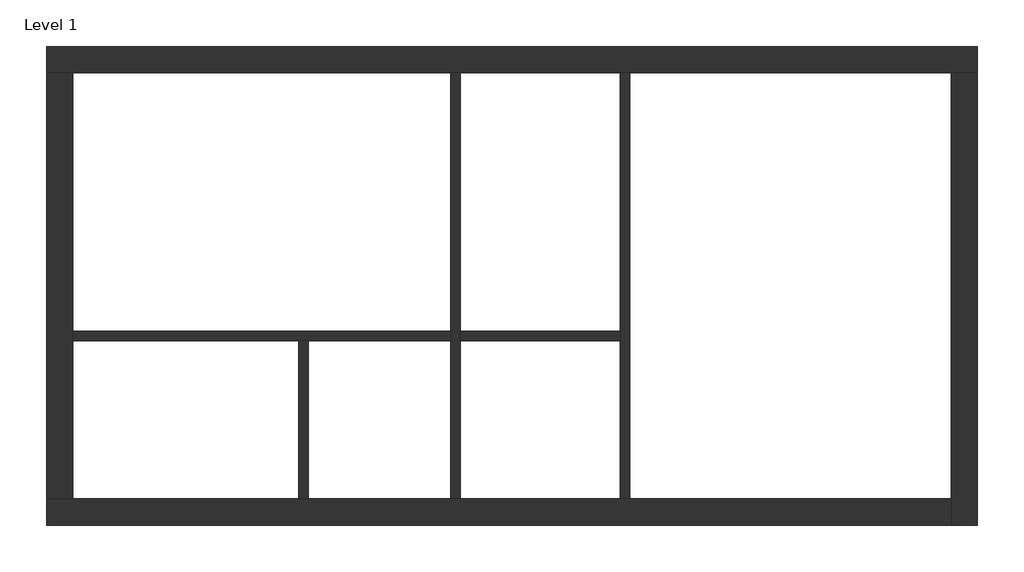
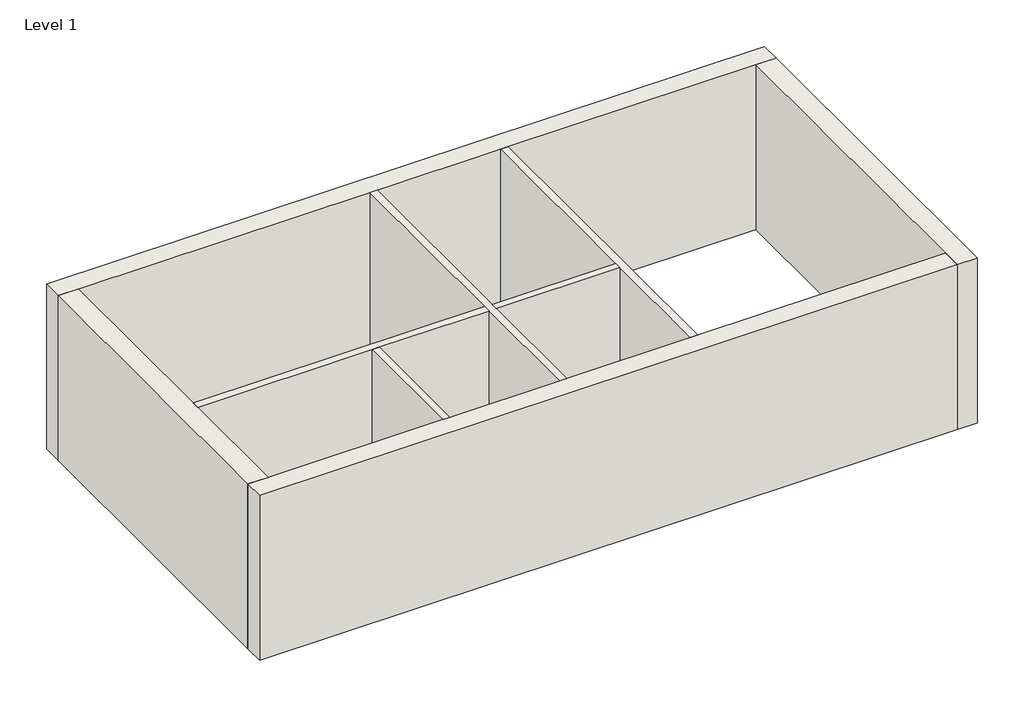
# One storey: 8 walls.
"""IFC4 building model written with IfcOpenShell, lengths in millimetres."""

from ifc_helpers import new_model, si_unit, origin, origin_with_axes, place, context, project, spatial, polyline, outline, extrude, faceted_brep, element, save

model = new_model("IFC4")

# Units and contexts
model_context = context("Model", 3, world=origin())
ifc_project = project(units=[si_unit("LENGTHUNIT", "METRE", prefix="MILLI")], contexts=[model_context])

# Site, building, storey
site = spatial("IfcSite", under=ifc_project)
building = spatial("IfcBuilding", under=site)
storey = spatial("IfcBuildingStorey", under=building, Name="Level 1", Elevation=0.0)

# Walls
placement = place(None, origin())
element("IfcWall", 1, ObjectType="Exterior - Brick on Mtl. Stud", at=placement, inside=storey, context=model_context, shape_type="Brep", body=[
    faceted_brep([(-4587.7696388, 5924.893319, 0.0), (-4235.3446388, 5924.893319, 0.0), (858.9428612, 5924.893319, 0.0), (985.9428612, 5924.893319, 0.0), (3144.9428612, 5924.893319, 0.0), (3271.9428612, 5924.893319, 0.0), (7604.2303612, 5924.893319, 0.0), (7956.6553612, 5924.893319, 0.0), (7956.6553612, 5924.893319, 3048.0), (7604.2303612, 5924.893319, 3048.0), (3271.9428612, 5924.893319, 3048.0), (3144.9428612, 5924.893319, 3048.0), (985.9428612, 5924.893319, 3048.0), (858.9428612, 5924.893319, 3048.0), (-4235.3446388, 5924.893319, 3048.0), (-4587.7696388, 5924.893319, 3048.0), (-4587.7696388, 6277.318319, 0.0), (-4587.7696388, 6277.318319, 3048.0), (7956.6553612, 6277.318319, 3048.0), (7956.6553612, 6277.318319, 0.0)], [[[0, 1, 2, 3, 4, 5, 6, 7, 8, 9, 10, 11, 12, 13, 14, 15]], [[16, 17, 18, 19]], [[7, 6, 5, 4, 3, 2, 1, 0, 16, 19]], [[15, 14, 13, 12, 11, 10, 9, 8, 18, 17]], [[8, 7, 19, 18]], [[0, 15, 17, 16]]]),
])
element("IfcWall", 2, ObjectType="Exterior - Brick on Mtl. Stud", at=placement, inside=storey, context=model_context, shape_type="Brep", body=[
    faceted_brep([(7604.2303612, 5924.893319, 0.0), (7604.2303612, 181.318319, 0.0), (7604.2303612, -171.106681, 0.0), (7604.2303612, -171.106681, 3048.0), (7604.2303612, 181.318319, 3048.0), (7604.2303612, 5924.893319, 3048.0), (7956.6553612, 5924.893319, 0.0), (7956.6553612, 5924.893319, 3048.0), (7956.6553612, -171.106681, 3048.0), (7956.6553612, -171.106681, 0.0)], [[[0, 1, 2, 3, 4, 5]], [[6, 7, 8, 9]], [[2, 1, 0, 6, 9]], [[5, 4, 3, 8, 7]], [[0, 5, 7, 6]], [[3, 2, 9, 8]]]),
])
element("IfcWall", 3, ObjectType="Exterior - Brick on Mtl. Stud", at=placement, inside=storey, context=model_context, shape_type="Brep", body=[
    faceted_brep([(7604.2303612, 181.318319, 0.0), (3271.9428612, 181.318319, 0.0), (3144.9428612, 181.318319, 0.0), (985.9428612, 181.318319, 0.0), (858.9428612, 181.318319, 0.0), (-1060.3446388, 181.318319, 0.0), (-1187.3446388, 181.318319, 0.0), (-4235.3446388, 181.318319, 0.0), (-4587.7696388, 181.318319, 0.0), (-4587.7696388, 181.318319, 3048.0), (-4235.3446388, 181.318319, 3048.0), (-1187.3446388, 181.318319, 3048.0), (-1060.3446388, 181.318319, 3048.0), (858.9428612, 181.318319, 3048.0), (985.9428612, 181.318319, 3048.0), (3144.9428612, 181.318319, 3048.0), (3271.9428612, 181.318319, 3048.0), (7604.2303612, 181.318319, 3048.0), (7604.2303612, -171.106681, 0.0), (7604.2303612, -171.106681, 3048.0), (-4587.7696388, -171.106681, 3048.0), (-4587.7696388, -171.106681, 0.0)], [[[0, 1, 2, 3, 4, 5, 6, 7, 8, 9, 10, 11, 12, 13, 14, 15, 16, 17]], [[18, 19, 20, 21]], [[8, 7, 6, 5, 4, 3, 2, 1, 0, 18, 21]], [[17, 16, 15, 14, 13, 12, 11, 10, 9, 20, 19]], [[0, 17, 19, 18]], [[9, 8, 21, 20]]]),
])
element("IfcWall", 4, ObjectType="Exterior - Brick on Mtl. Stud", at=placement, inside=storey, context=model_context, shape_type="Brep", body=[
    faceted_brep([(-4235.3446388, 181.318319, 0.0), (-4235.3446388, 2314.918319, 0.0), (-4235.3446388, 2441.918319, 0.0), (-4235.3446388, 5924.893319, 0.0), (-4235.3446388, 5924.893319, 3048.0), (-4235.3446388, 2441.918319, 3048.0), (-4235.3446388, 2314.918319, 3048.0), (-4235.3446388, 181.318319, 3048.0), (-4587.7696388, 181.318319, 0.0), (-4587.7696388, 181.318319, 3048.0), (-4587.7696388, 5924.893319, 3048.0), (-4587.7696388, 5924.893319, 0.0)], [[[0, 1, 2, 3, 4, 5, 6, 7]], [[8, 9, 10, 11]], [[3, 2, 1, 0, 8, 11]], [[7, 6, 5, 4, 10, 9]], [[0, 7, 9, 8]], [[4, 3, 11, 10]]]),
])
element("IfcWall", 5, ObjectType="Interior - 5\" Partition (2-hr)", at=placement, inside=storey, context=model_context, shape_type="Brep", body=[
    faceted_brep([(3144.9428612, 5924.893319, 0.0), (3144.9428612, 2441.918319, 0.0), (3144.9428612, 2314.918319, 0.0), (3144.9428612, 181.318319, 0.0), (3144.9428612, 181.318319, 3048.0), (3144.9428612, 2314.918319, 3048.0), (3144.9428612, 2441.918319, 3048.0), (3144.9428612, 5924.893319, 3048.0), (3271.9428612, 5924.893319, 0.0), (3271.9428612, 5924.893319, 3048.0), (3271.9428612, 181.318319, 3048.0), (3271.9428612, 181.318319, 0.0)], [[[0, 1, 2, 3, 4, 5, 6, 7]], [[8, 9, 10, 11]], [[3, 2, 1, 0, 8, 11]], [[7, 6, 5, 4, 10, 9]], [[0, 7, 9, 8]], [[4, 3, 11, 10]]]),
])
element("IfcWall", 6, ObjectType="Interior - 5\" Partition (2-hr)", at=placement, inside=storey, context=model_context, shape_type="Brep", body=[
    faceted_brep([(858.9428612, 5924.893319, 0.0), (858.9428612, 2441.918319, 0.0), (858.9428612, 2314.918319, 0.0), (858.9428612, 181.318319, 0.0), (858.9428612, 181.318319, 3048.0), (858.9428612, 2314.918319, 3048.0), (858.9428612, 2441.918319, 3048.0), (858.9428612, 5924.893319, 3048.0), (985.9428612, 5924.893319, 0.0), (985.9428612, 5924.893319, 3048.0), (985.9428612, 2441.918319, 3048.0), (985.9428612, 2314.918319, 3048.0), (985.9428612, 181.318319, 3048.0), (985.9428612, 181.318319, 0.0), (985.9428612, 2314.918319, 0.0), (985.9428612, 2441.918319, 0.0)], [[[0, 1, 2, 3, 4, 5, 6, 7]], [[8, 9, 10, 11, 12, 13, 14, 15]], [[3, 2, 1, 0, 8, 15, 14, 13]], [[7, 6, 5, 4, 12, 11, 10, 9]], [[0, 7, 9, 8]], [[4, 3, 13, 12]]]),
])
element("IfcWall", 7, ObjectType="Interior - 5\" Partition (2-hr)", at=placement, inside=storey, context=model_context, shape_type="Brep", body=[
    faceted_brep([(-4235.3446388, 2314.918319, 3048.0), (-4235.3446388, 2314.918319, 0.0), (-1187.3446388, 2314.918319, 0.0), (-1060.3446388, 2314.918319, 0.0), (858.9428612, 2314.918319, 0.0), (858.9428612, 2314.918319, 3048.0), (-1060.3446388, 2314.918319, 3048.0), (-1187.3446388, 2314.918319, 3048.0), (-4235.3446388, 2441.918319, 0.0), (-4235.3446388, 2441.918319, 3048.0), (858.9428612, 2441.918319, 3048.0), (858.9428612, 2441.918319, 0.0)], [[[0, 1, 2, 3, 4, 5, 6, 7]], [[8, 9, 10, 11]], [[1, 8, 11, 4, 3, 2]], [[9, 0, 7, 6, 5, 10]], [[1, 0, 9, 8]], [[5, 4, 11, 10]]]),
    faceted_brep([(3144.9428612, 2314.918319, 0.0), (3144.9428612, 2314.918319, 3048.0), (985.9428612, 2314.918319, 3048.0), (985.9428612, 2314.918319, 0.0), (3144.9428612, 2441.918319, 3048.0), (3144.9428612, 2441.918319, 0.0), (985.9428612, 2441.918319, 0.0), (985.9428612, 2441.918319, 3048.0)], [[[0, 1, 2, 3]], [[4, 5, 6, 7]], [[5, 0, 3, 6]], [[1, 4, 7, 2]], [[1, 0, 5, 4]], [[3, 2, 7, 6]]]),
])
element("IfcWall", 8, ObjectType="Interior - 5\" Partition (2-hr)", at=placement, inside=storey, context=model_context, shape_type="SweptSolid", body=[
    extrude(outline(polyline([(-1060.3446388, 2314.918319), (-1060.3446388, 181.318319), (-1187.3446388, 181.318319), (-1187.3446388, 2314.918319), (-1060.3446388, 2314.918319)])), origin_with_axes(), (0.0, 0.0, 1.0), 3048.0),
])

save(model, "model.ifc")
